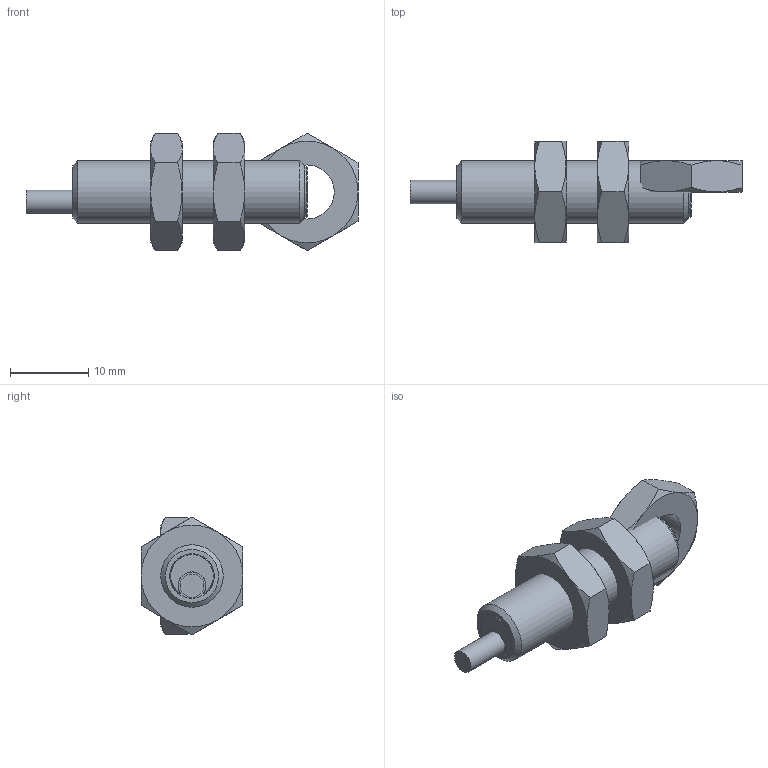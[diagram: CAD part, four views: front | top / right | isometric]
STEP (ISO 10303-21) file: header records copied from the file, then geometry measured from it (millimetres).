
FILE_DESCRIPTION( ( 'Unknown' ), '1' );
FILE_NAME( 'X:/SolidEdge/Models/Dokumentationen/Induktiv/Magnetsensoren/Vereinfachte Modelle/Neutralformate/MxRx 08xx524_L.stp', 'Unknown', ( 'Unknown' ), ( 'Unknown' ), 'PSStep 10.0', 'Unknown', ' ' );
FILE_SCHEMA( ( 'AUTOMOTIVE_DESIGN { 1 0 10303 214 1 1 1 1 }' ) );
Length unit declared in the file: millimetre
Products named in the file (3): Assem1; MxRx 08xx524_L_oA; 101469
Bounding box: 42.45 x 13 x 15.01 mm (x, y, z)
Volume: 4356 mm3; surface area: 3196.9 mm2
Topology: 5 solids, 5 shells, 101 faces, 214 edges, 131 vertices
Faces by surface type: cone 46, plane 44, cylinder 11
Full cylindrical faces by diameter (mm): 3 x2, 5.7 x2, 6.4 x2, 6.917 x3, 8 x2
Entity records: 1222 total; most frequent: CARTESIAN_POINT 320, DIRECTION 160, ORIENTED_EDGE 146, AXIS2_PLACEMENT_3D 73, EDGE_CURVE 73, EDGE_LOOP 54, VERTEX_POINT 49, FACE_OUTER_BOUND 45
